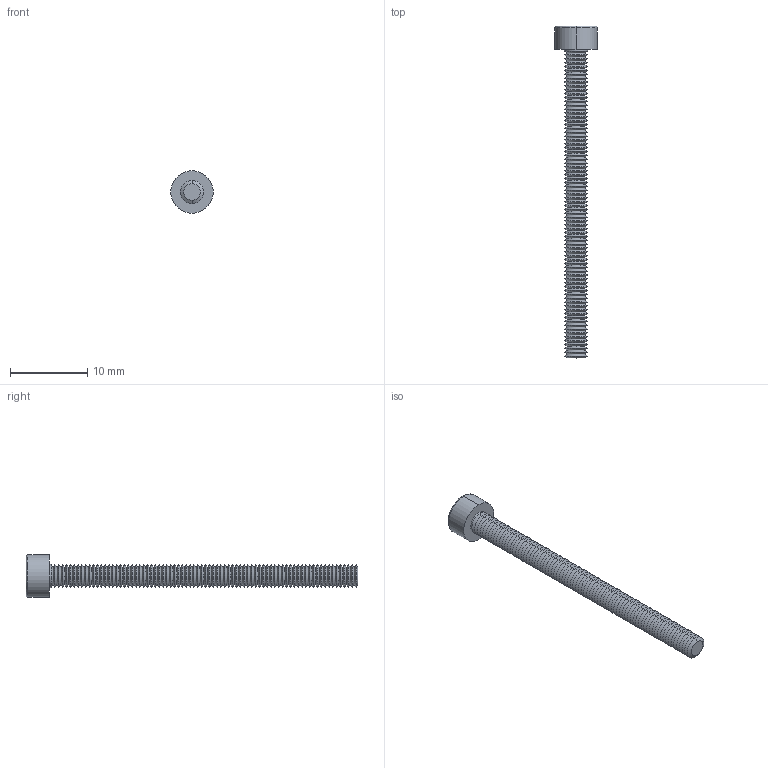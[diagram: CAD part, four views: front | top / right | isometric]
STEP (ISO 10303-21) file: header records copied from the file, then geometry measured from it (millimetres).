
FILE_DESCRIPTION (( 'STEP AP203' ), '1' );
FILE_NAME ('91N.030.0400.step', '2025-05-20T08:50:04', ( '' ), ( '' ), 'SwSTEP 2.0', 'SolidWorks 2019', '' );
FILE_SCHEMA (( 'CONFIG_CONTROL_DESIGN' ));
Length unit declared in the file: millimetre
Products named in the file (1): 91N.030.0400
Bounding box: 5.5 x 43 x 5.5 mm (x, y, z)
Volume: 265.7 mm3; surface area: 759.6 mm2
Topology: 1 solids, 1 shells, 348 faces, 695 edges, 349 vertices
Faces by surface type: cone 327, plane 15, cylinder 4, torus 2
Entity records: 8778 total; most frequent: DIRECTION 1727, CARTESIAN_POINT 1418, ORIENTED_EDGE 1386, EDGE_CURVE 693, AXIS2_PLACEMENT_3D 692, EDGE_LOOP 350, VERTEX_POINT 349, ADVANCED_FACE 348
